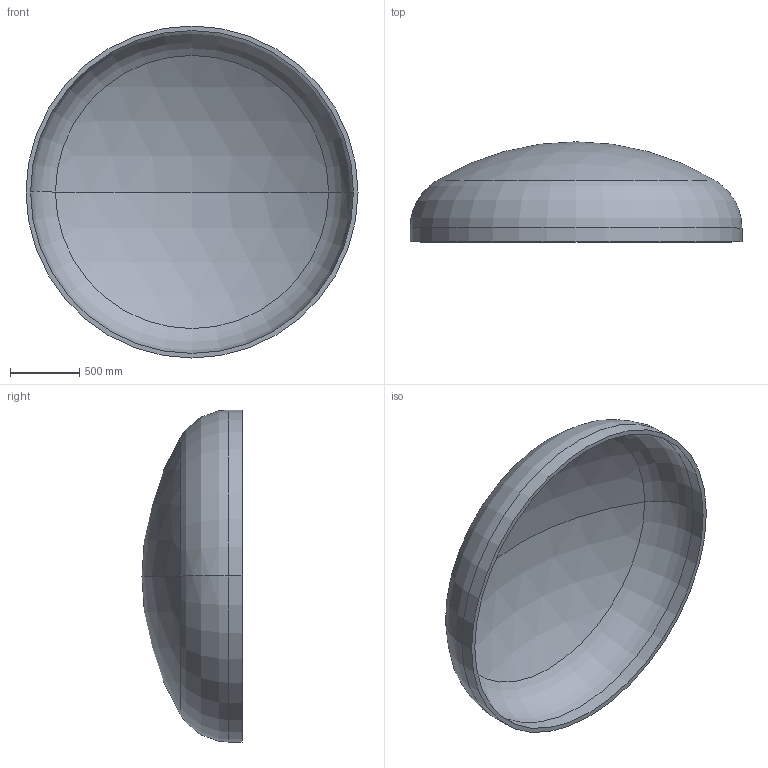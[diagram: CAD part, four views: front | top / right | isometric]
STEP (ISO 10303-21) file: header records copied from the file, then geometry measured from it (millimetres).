
FILE_DESCRIPTION (( 'STEP AP203' ), '1' );
FILE_NAME ('DIN 28013 Korbbogenform_-_Boden DIN 28013 - 2400 x 100 - I - s=33.step', '2016-07-01T15:16:59', ( '' ), ( '' ), 'SwSTEP 2.0', 'SolidWorks 2013', '' );
FILE_SCHEMA (( 'CONFIG_CONTROL_DESIGN' ));
Length unit declared in the file: millimetre
Products named in the file (1): DIN 28013 Korbbogenform_-_Boden DIN 28013 - 2400 x 100 - I - s=33
Bounding box: 2400 x 723.61 x 2400 mm (x, y, z)
Volume: 227622289.2 mm3; surface area: 14042959.2 mm2
Topology: 1 solids, 1 shells, 13 faces, 24 edges, 14 vertices
Faces by surface type: torus 4, cylinder 4, sphere 4, plane 1
Entity records: 407 total; most frequent: DIRECTION 72, CARTESIAN_POINT 52, ORIENTED_EDGE 48, AXIS2_PLACEMENT_3D 34, EDGE_CURVE 24, CIRCLE 20, VERTEX_POINT 14, EDGE_LOOP 14
